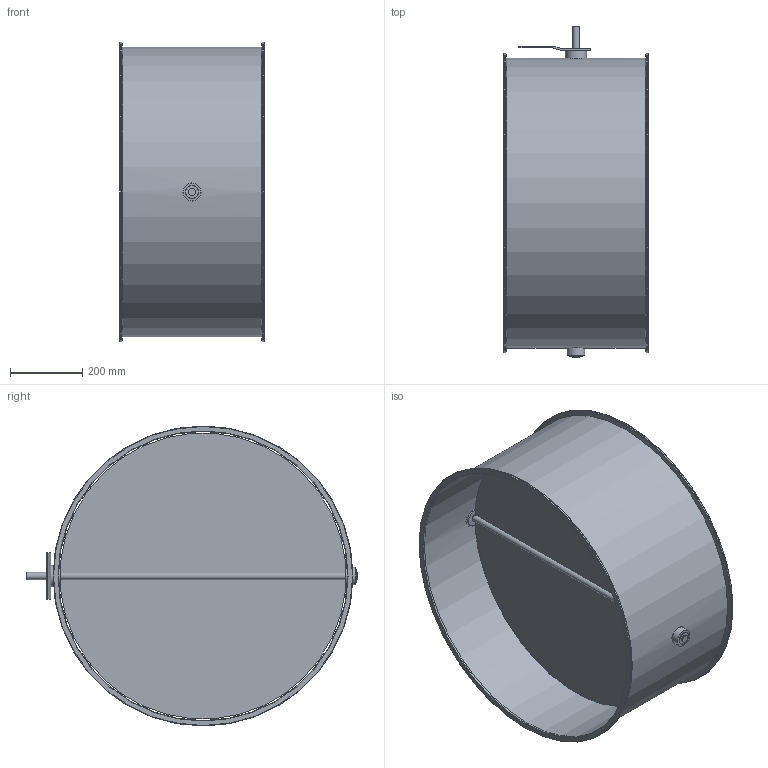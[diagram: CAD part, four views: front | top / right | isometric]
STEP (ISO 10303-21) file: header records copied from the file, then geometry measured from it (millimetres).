
FILE_DESCRIPTION(/* description */ (''),/* implementation_level */ '2;1');
FILE_NAME(/* name */ 'EA115-80B__800_L440_Belimo_Typ_GM.stp',/* time_stamp */ '2017-12-06T16:24:18+01:00',/* author */ (''),/* organization */ (''),/* preprocessor_version */ 'ST-DEVELOPER v11',/* originating_system */ 'SIEMENS UGS NX 6.0',/* authorisation */ '');
FILE_SCHEMA (('CONFIG_CONTROL_DESIGN'));
Length unit declared in the file: millimetre
Products named in the file (1): gars18E2j2je
Bounding box: 400 x 915 x 830 mm (x, y, z)
Volume: 2798134.5 mm3; surface area: 3276134.7 mm2
Topology: 8 solids, 8 shells, 79 faces, 167 edges, 106 vertices
Faces by surface type: plane 36, cylinder 35, torus 6, cone 2
Full cylindrical faces by diameter (mm): 8.1 x7, 20 x3, 35 x3, 35.85 x2, 36 x2, 49 x1, 50 x2, 59 x1, 800 x1, 802.4 x1, 830 x2
Entity records: 2094 total; most frequent: CARTESIAN_POINT 400, DIRECTION 352, ORIENTED_EDGE 248, AXIS2_PLACEMENT_3D 152, EDGE_LOOP 144, EDGE_CURVE 124, FACE_BOUND 114, VERTEX_POINT 96
